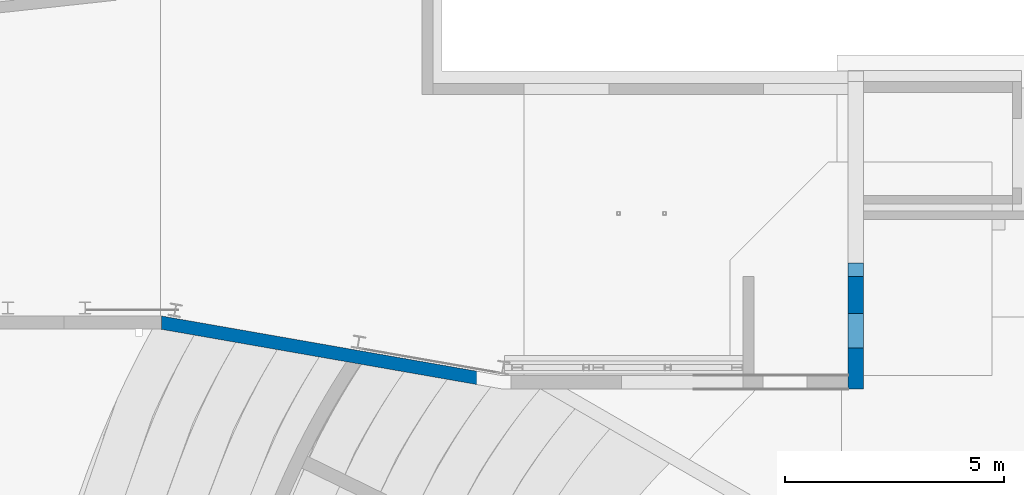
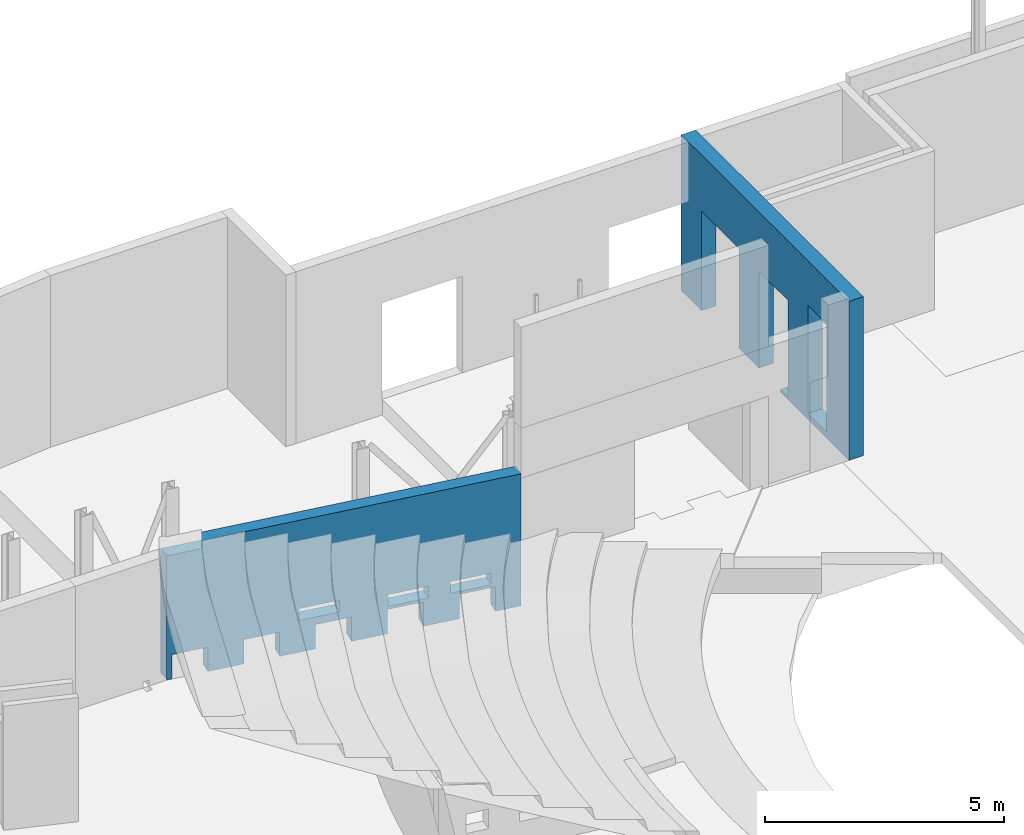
# One storey, part 34 of 34: 2 walls.
"""IFC2X3 building model written with IfcOpenShell, lengths in millimetres."""

from ifc_helpers import new_model, entity, si_unit, converted_unit, derived_unit, direction, frame, origin, place, context, subcontext, project, spatial, faceted_brep, material, layer, layer_set, type_object, element, save


model = new_model("IFC2X3")

# Units and contexts
model_context = context("Model", 3, precision=0.01, world=origin(), true_north=direction((6.12303176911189e-17, 1.0)))
body_context = subcontext(model_context, "Body", "Model", "MODEL_VIEW")
ifc_project = project(units=[si_unit("LENGTHUNIT", "METRE", prefix="MILLI"), si_unit("AREAUNIT", "SQUARE_METRE", prefix="MILLI"), si_unit("VOLUMEUNIT", "CUBIC_METRE"), converted_unit("PLANEANGLEUNIT", "DEGREE", entity("IfcRatioMeasure", 0.0174532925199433), si_unit("PLANEANGLEUNIT", "RADIAN"), dimensions=[0, 0, 0, 0, 0, 0, 0]), si_unit("MASSUNIT", "GRAM", prefix="KILO"), derived_unit("MASSDENSITYUNIT", [(si_unit("MASSUNIT", "GRAM", prefix="KILO"), 1), (si_unit("LENGTHUNIT", "METRE"), -3)]), derived_unit("MOMENTOFINERTIAUNIT", [(si_unit("LENGTHUNIT", "METRE"), 4)]), si_unit("TIMEUNIT", "SECOND"), si_unit("FREQUENCYUNIT", "HERTZ"), si_unit("THERMODYNAMICTEMPERATUREUNIT", "DEGREE_CELSIUS"), derived_unit("THERMALTRANSMITTANCEUNIT", [(si_unit("MASSUNIT", "GRAM", prefix="KILO"), 1), (si_unit("THERMODYNAMICTEMPERATUREUNIT", "KELVIN"), -1), (si_unit("TIMEUNIT", "SECOND"), -3)]), derived_unit("VOLUMETRICFLOWRATEUNIT", [(si_unit("LENGTHUNIT", "METRE"), 3), (si_unit("TIMEUNIT", "SECOND"), -1)]), si_unit("ELECTRICCURRENTUNIT", "AMPERE"), si_unit("ELECTRICVOLTAGEUNIT", "VOLT"), si_unit("POWERUNIT", "WATT"), si_unit("FORCEUNIT", "NEWTON", prefix="KILO"), si_unit("ILLUMINANCEUNIT", "LUX"), si_unit("LUMINOUSFLUXUNIT", "LUMEN"), si_unit("LUMINOUSINTENSITYUNIT", "CANDELA"), derived_unit("USERDEFINED", [(si_unit("MASSUNIT", "GRAM", prefix="KILO"), -1), (si_unit("LENGTHUNIT", "METRE"), -2), (si_unit("TIMEUNIT", "SECOND"), 3), (si_unit("LUMINOUSFLUXUNIT", "LUMEN"), 1)]), derived_unit("LINEARVELOCITYUNIT", [(si_unit("LENGTHUNIT", "METRE"), 1), (si_unit("TIMEUNIT", "SECOND"), -1)]), si_unit("PRESSUREUNIT", "PASCAL"), derived_unit("USERDEFINED", [(si_unit("LENGTHUNIT", "METRE"), -2), (si_unit("MASSUNIT", "GRAM", prefix="KILO"), 1), (si_unit("TIMEUNIT", "SECOND"), -2)]), derived_unit("LINEARFORCEUNIT", [(si_unit("MASSUNIT", "GRAM", prefix="KILO"), 1), (si_unit("LENGTHUNIT", "METRE"), 1), (si_unit("TIMEUNIT", "SECOND"), -2), (si_unit("LENGTHUNIT", "METRE"), -1)]), derived_unit("PLANARFORCEUNIT", [(si_unit("MASSUNIT", "GRAM", prefix="KILO"), 1), (si_unit("LENGTHUNIT", "METRE"), 1), (si_unit("TIMEUNIT", "SECOND"), -2), (si_unit("LENGTHUNIT", "METRE"), -2)])], contexts=[model_context])

# Site, building, storey
site_placement = place(None, origin())
site = spatial("IfcSite", under=ifc_project, at=site_placement, Name="Theater aan de Parade", CompositionType="ELEMENT")
building_placement = place(site_placement, origin())
building = spatial("IfcBuilding", under=site, at=building_placement, Name="Theater aan de Parade", CompositionType="ELEMENT")
storey_placement = place(building_placement, frame((0.0, 0.0, 3.49116848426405e-09)))
storey = spatial("IfcBuildingStorey", under=building, at=storey_placement, Name="00 begane grond", CompositionType="ELEMENT", Elevation=3.49116848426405e-09)

# Walls
ifc_material_1 = material(Name="00_PBT_MAT_beton t.p.g.")
ifc_layer_1 = layer(ifc_material_1, 300.0)
ifc_layer_set_1 = layer_set([ifc_layer_1], Name="Basic Wall:28_PBT_WA_beton t.p.g._d=300_bestaand")
wall_type_1 = type_object("IfcWallType", Name="Basic Wall:28_PBT_WA_beton t.p.g._d=300_bestaand", PredefinedType="STANDARD", material=ifc_layer_set_1)
wall_1_placement = place(storey_placement, frame((51670.1949934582, 44062.2454299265, -60.0), z_axis=(0.0, 0.0, 1.0), x_axis=(0.985030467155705, -0.172380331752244, 0.0)))
element("IfcWall", 1, at=wall_1_placement, inside=storey, type_object=wall_type_1, Name="Basic Wall:28_PBT_WA_beton t.p.g._d=300_bestaand", ObjectType="Basic Wall:28_PBT_WA_beton t.p.g._d=300_bestaand", context=body_context, shape_type="Brep", body=[
    faceted_brep([(7342.60904691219, 150.0, 620.0), (7342.60904691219, -150.0, 620.0), (6542.60904691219, -150.0, 620.0), (6542.6090469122, 150.0, 620.0), (5742.60904691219, -150.0, 620.0), (4942.60904691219, -150.0, 620.0), (4942.60904691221, 150.0, 620.0), (5742.6090469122, 150.0, 620.0), (4142.60904691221, -150.0, 620.0), (3342.6090469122, -150.0, 620.0), (3342.60904691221, 150.0, 620.0), (4142.6090469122, 150.0, 620.0), (2542.6090469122, 150.0, 620.0), (2542.60904691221, -150.0, 620.0), (1742.6090469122, -150.0, 620.0), (1742.6090469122, 150.0, 620.0), (942.609046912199, 150.0, 620.0), (942.609046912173, -150.0, 620.0), (142.609046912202, -150.0, 620.0), (142.609046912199, 150.0, 620.0), (7915.58321058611, -150.0, 0.0), (7342.60904691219, -150.0, 0.0), (7342.60904691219, 150.0, 0.0), (7889.53116736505, 150.0, 0.0), (7915.58321058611, 150.0, 0.0), (142.609046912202, -150.0, 0.0), (26.0520432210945, -150.0, 0.0), (51.7140995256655, -145.509140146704, 0.0), (0.0, 150.0, 0.0), (142.609046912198, 150.0, 0.0), (6542.60904691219, -150.0, 0.0), (5742.60904691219, -150.0, 0.0), (5742.6090469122, 150.0, 0.0), (6542.60904691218, 150.0, 0.0), (4332.54070681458, -150.0, 0.0), (4142.60904691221, -150.0, 0.0), (4142.6090469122, 150.0, 0.0), (4942.60904691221, 150.0, 0.0), (4942.60904691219, -150.0, 0.0), (4659.70886729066, -150.0, 0.0), (3342.6090469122, -150.0, 0.0), (2542.6090469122, -150.0, 0.0), (2542.6090469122, 150.0, 0.0), (3342.6090469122, 150.0, 0.0), (1742.60904691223, -150.0, 0.0), (942.609046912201, -150.0, 0.0), (942.609046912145, 150.0, 0.0), (1742.60904691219, 150.0, 0.0), (26.0520432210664, -150.0, 3170.0), (805.07151119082, -150.0, 3170.0), (2972.33904112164, -150.0, 1113.74989565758), (2972.33904112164, -150.0, 813.749895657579), (3872.33904112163, -150.0, 813.749895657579), (3872.33904112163, -150.0, 1113.74989565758), (4949.24072341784, -150.0, 995.0), (4949.24072341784, -150.0, 695.0), (5849.24072341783, -150.0, 695.0), (6349.43549973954, -150.0, 695.0), (7249.43549973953, -150.0, 695.0), (7249.43549973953, -150.0, 995.0), (7915.58321058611, -150.0, 3370.0), (805.071511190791, -150.0, 3370.0), (5849.24072341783, -150.0, 995.0), (6349.43549973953, -150.0, 995.0), (7249.43549973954, 150.0, 995.0), (7915.58321058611, 150.0, 3370.0), (7249.43549973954, 150.0, 695.0), (6349.43549973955, 150.0, 695.0), (5849.24072341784, 150.0, 695.0), (4949.24072341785, 150.0, 695.0), (4949.24072341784, 150.0, 995.0), (3872.33904112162, 150.0, 1113.74989565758), (3872.33904112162, 150.0, 813.749895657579), (2972.33904112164, 150.0, 813.749895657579), (2972.33904112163, 150.0, 1113.74989565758), (915.548178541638, 150.0, 3170.0), (0.0, 150.0, 3170.0), (0.0, 150.0, 620.0), (915.548178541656, 150.0, 3370.0), (6349.43549973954, 150.0, 995.0), (5849.24072341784, 150.0, 995.0), (51.7140995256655, -145.509140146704, 3170.0), (859.783362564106, 0.189710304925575, 3170.0), (859.784714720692, 0.193382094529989, 3370.0)], [[[0, 1, 2, 3]], [[4, 5, 6, 7]], [[8, 9, 10, 11]], [[12, 13, 14, 15]], [[16, 17, 18, 19]], [[20, 21, 22, 23, 24]], [[25, 26, 27, 28, 29]], [[30, 31, 32, 33]], [[34, 35, 36, 37, 38, 39]], [[40, 41, 42, 43]], [[44, 45, 46, 47]], [[26, 25, 18]], [[26, 18, 48]], [[48, 18, 49]], [[49, 18, 17]], [[49, 17, 14]], [[44, 14, 17]], [[17, 45, 44]], [[14, 50, 49]], [[14, 13, 50]], [[50, 13, 51]], [[13, 41, 51]], [[40, 51, 41]], [[51, 40, 9]], [[52, 51, 9]], [[9, 8, 52]], [[53, 52, 8]], [[8, 54, 53]], [[8, 55, 54]], [[8, 5, 55]], [[8, 39, 5]], [[34, 39, 8]], [[35, 34, 8]], [[38, 5, 39]], [[4, 55, 5]], [[4, 56, 55]], [[4, 31, 56]], [[56, 31, 57]], [[31, 30, 57]], [[2, 57, 30]], [[57, 2, 58]], [[1, 58, 2]], [[59, 58, 1]], [[20, 59, 1]], [[21, 20, 1]], [[20, 60, 59]], [[61, 53, 60]], [[54, 62, 60]], [[63, 59, 60]], [[63, 60, 62]], [[54, 60, 53]], [[50, 53, 61]], [[50, 61, 49]], [[56, 63, 62]], [[57, 63, 56]], [[24, 23, 0]], [[24, 0, 64]], [[65, 24, 64]], [[22, 0, 23]], [[64, 0, 66]], [[0, 3, 66]], [[67, 66, 3]], [[33, 67, 3]], [[67, 33, 32]], [[68, 67, 32]], [[7, 68, 32]], [[68, 7, 69]], [[69, 7, 6]], [[11, 69, 6]], [[11, 6, 36]], [[6, 37, 36]], [[69, 11, 70]], [[11, 71, 70]], [[72, 71, 11]], [[11, 10, 72]], [[10, 73, 72]], [[73, 10, 43]], [[43, 42, 73]], [[12, 73, 42]], [[74, 73, 12]], [[15, 74, 12]], [[74, 15, 75]], [[75, 15, 16]], [[15, 47, 16]], [[47, 46, 16]], [[75, 16, 19]], [[19, 76, 75]], [[76, 19, 77]], [[19, 29, 77]], [[29, 28, 77]], [[78, 74, 75]], [[71, 74, 78]], [[71, 78, 65]], [[65, 64, 79]], [[65, 79, 80]], [[80, 70, 65]], [[65, 70, 71]], [[67, 68, 79]], [[68, 80, 79]], [[81, 48, 49, 82, 75, 76]], [[75, 83, 78]], [[83, 75, 82]], [[82, 49, 61]], [[82, 61, 83]], [[27, 26, 48, 81]], [[77, 28, 27, 81, 76]], [[0, 22, 21, 1]], [[3, 2, 30, 33]], [[7, 32, 31, 4]], [[6, 5, 38, 37]], [[8, 11, 36, 35]], [[10, 9, 40, 43]], [[13, 12, 42, 41]], [[14, 44, 47, 15]], [[16, 46, 45, 17]], [[18, 25, 29, 19]], [[60, 20, 24, 65]], [[61, 60, 65, 78, 83]], [[63, 57, 67, 79]], [[59, 63, 79, 64]], [[62, 54, 70, 80]], [[58, 59, 64, 66]], [[57, 58, 66, 67]], [[55, 56, 68, 69]], [[54, 55, 69, 70]], [[56, 62, 80, 68]], [[50, 51, 73, 74]], [[53, 50, 74, 71]], [[52, 53, 71, 72]], [[51, 52, 72, 73]]]),
])
ifc_material_2 = material(Name="00_PBT_MAT_beton t.p.g._C53/65")
ifc_layer_2 = layer(ifc_material_2, 350.0)
ifc_layer_set_2 = layer_set([ifc_layer_2], Name="Basic Wall:28_PBT_WA_beton t.p.g._d=350_C53/65")
wall_type_2 = type_object("IfcWallType", Name="Basic Wall:28_PBT_WA_beton t.p.g._d=350_C53/65", PredefinedType="STANDARD", material=ifc_layer_set_2)
wall_2_placement = place(storey_placement, frame((67531.2561009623, 42550.0, 880.0), z_axis=(0.0, 0.0, 1.0), x_axis=(0.0, 1.0, 0.0)))
element("IfcWall", 2, at=wall_2_placement, inside=storey, type_object=wall_type_2, Name="Basic Wall:28_PBT_WA_beton t.p.g._d=350_C53/65", ObjectType="Basic Wall:28_PBT_WA_beton t.p.g._d=350_C53/65", context=body_context, shape_type="Brep", body=[
    faceted_brep([(930.937626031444, -175.0, 155.0), (930.937626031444, -175.0, 2920.0), (1720.93762603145, -175.0, 2920.0), (1720.93762603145, -175.0, 155.0), (7012.0, -175.0, 4060.0), (6762.0, -175.0, 4060.0), (6166.87234067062, -175.0, 4060.0), (4586.87234067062, -175.0, 4060.0), (4411.87234067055, -175.0, 4060.0), (4211.87234067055, -175.0, 4060.0), (4061.87234067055, -175.0, 4060.0), (3861.87234067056, -175.0, 4060.0), (0.0, -175.0, 4060.0), (0.0, -175.0, 0.0), (300.0, -175.0, 0.0), (2866.99982429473, -175.0, 0.0), (2866.99982429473, -175.0, 80.0), (2556.56451300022, -175.0, 80.0), (2556.56451300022, -175.0, 2540.0), (3756.56451300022, -175.0, 2540.0), (3756.56451300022, -175.0, 80.0), (4586.85243629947, -175.0, 80.0), (4586.85243629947, -175.0, 2620.0), (6166.85243629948, -175.0, 2620.0), (6166.85243629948, -175.0, 80.0), (7012.0, -175.0, 80.0), (930.937626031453, 175.0, 2920.0), (930.937626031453, 175.0, 155.0), (1720.93762603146, 175.0, 155.0), (1720.93762603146, 175.0, 2920.0), (0.0, 175.0, 4060.0), (2567.56382566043, 175.0, 4060.0), (4586.87234067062, 175.0, 4060.0), (6166.87234067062, 175.0, 4060.0), (6711.99799087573, 175.0, 4060.0), (7012.0, 175.0, 4060.0), (7012.0, 175.0, 80.0), (6166.85243629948, 175.0, 80.0), (6166.85243629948, 175.0, 2620.0), (4586.85243629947, 175.0, 2620.0), (4586.85243629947, 175.0, 80.0), (3756.56451300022, 175.0, 80.0), (3756.56451300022, 175.0, 2540.0), (2556.56451300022, 175.0, 2540.0), (2556.56451300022, 175.0, 80.0), (2866.99982429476, 175.0, 80.0), (2866.99982429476, 175.0, 0.0), (300.0, 175.0, 0.0), (0.0, 175.0, 0.0)], [[[0, 1, 2, 3], [4, 5, 6, 7, 8, 9, 10, 11, 12, 13, 14, 15, 16, 17, 18, 19, 20, 21, 22, 23, 24, 25]], [[26, 27, 28, 29], [30, 31, 32, 33, 34, 35, 36, 37, 38, 39, 40, 41, 42, 43, 44, 45, 46, 47, 48]], [[35, 4, 25, 36]], [[12, 11, 10, 9, 8, 7, 6, 5, 4, 35, 34, 33, 32, 31, 30]], [[13, 12, 30, 48]], [[17, 44, 43, 18]], [[44, 17, 16, 45]], [[19, 42, 41, 20]], [[18, 43, 42, 19]], [[14, 47, 46, 15]], [[14, 13, 48, 47]], [[0, 27, 26, 1]], [[27, 0, 3, 28]], [[28, 3, 2, 29]], [[1, 26, 29, 2]], [[39, 22, 21, 40]], [[23, 38, 37, 24]], [[22, 39, 38, 23]], [[25, 24, 37, 36]], [[16, 15, 46, 45]], [[21, 20, 41, 40]]], outer=[[False, True], [False, True], [True], [True], [True], [True], [True], [True], [True], [True], [True], [True], [True], [True], [True], [True], [True], [True], [True], [True], [True]]),
])

save(model, "model.ifc")
